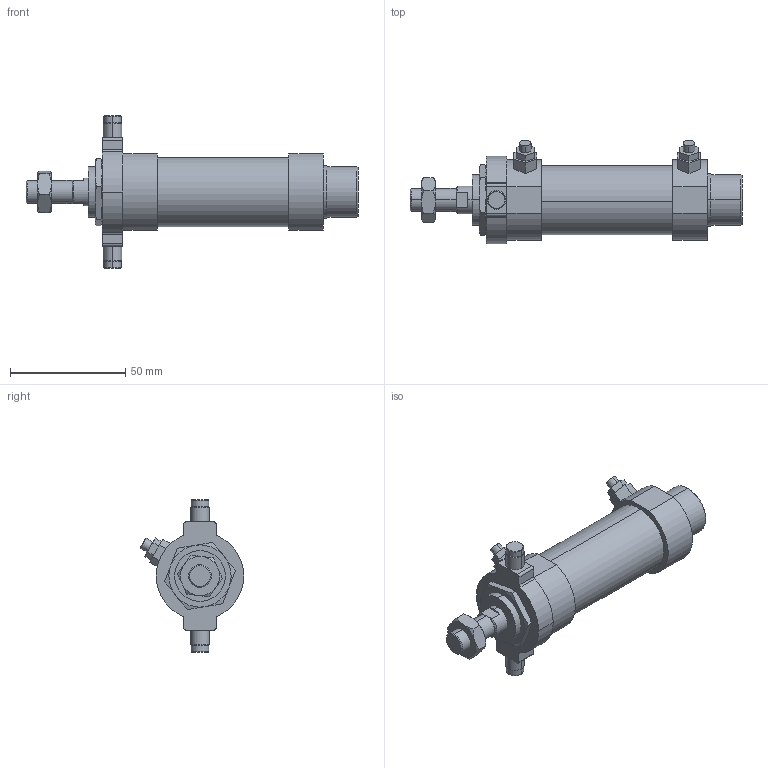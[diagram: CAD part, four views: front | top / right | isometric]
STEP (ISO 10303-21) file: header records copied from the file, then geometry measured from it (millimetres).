
FILE_DESCRIPTION (( 'STEP AP203' ), '1' );
FILE_NAME ('JG2-25-25-T.STEP', '2016-04-19T00:49:12', ( '' ), ( '' ), 'SwSTEP 2.0', 'SolidWorks 2014', '' );
FILE_SCHEMA (( 'CONFIG_CONTROL_DESIGN' ));
Length unit declared in the file: millimetre
Products named in the file (7): J#2-25-T; JG2-25B; M22x1.5-3mm; JG2-25-25-T; 25-25; M10x1.5-6mm; JG2-25A
Assembly tree (6 placements, depth 2):
  JG2-25-25-T
    JG2-25B
    25-25
    JG2-25A
    M10x1.5-6mm
    M22x1.5-3mm
    J#2-25-T
Bounding box: 144 x 44.93 x 66 mm (x, y, z)
Volume: 92760.4 mm3; surface area: 24076.3 mm2
Topology: 6 solids, 6 shells, 176 faces, 399 edges, 248 vertices
Faces by surface type: plane 79, cylinder 51, torus 24, cone 22
Entity records: 5968 total; most frequent: CARTESIAN_POINT 1300, DIRECTION 849, ORIENTED_EDGE 790, EDGE_CURVE 395, AXIS2_PLACEMENT_3D 333, VERTEX_POINT 248, EDGE_LOOP 199, VECTOR 183
